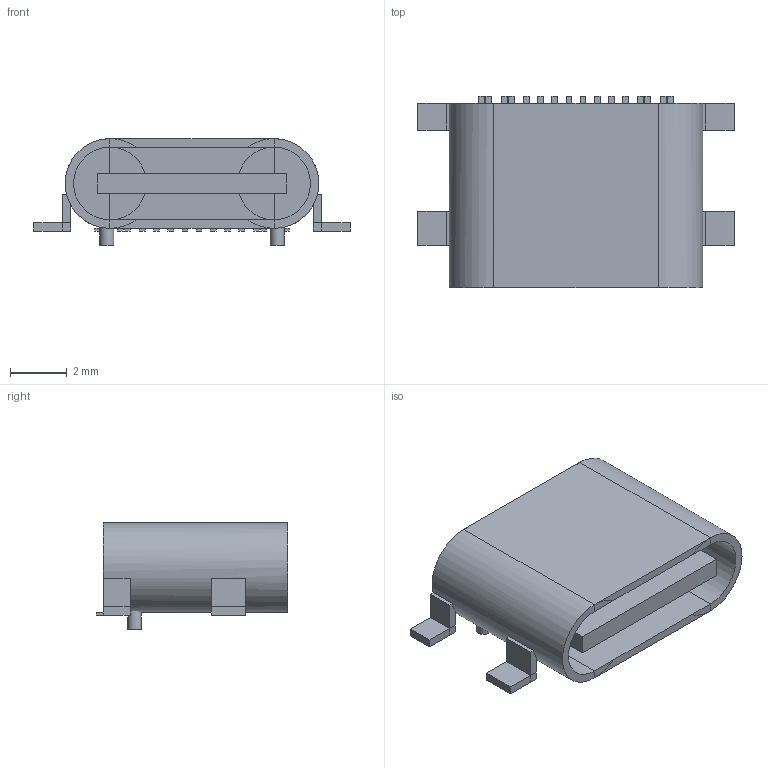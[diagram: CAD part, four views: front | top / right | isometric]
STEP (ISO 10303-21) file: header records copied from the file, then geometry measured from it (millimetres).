
FILE_DESCRIPTION(('Open CASCADE Model'),'2;1');
FILE_NAME('Open CASCADE Shape Model','2026-11-21T10:25:00',('Author'),( 'Open CASCADE'),'Open CASCADE STEP processor 8.0','Open CASCADE 8.0' ,'Unknown');
FILE_SCHEMA(('AUTOMOTIVE_DESIGN { 1 0 10303 214 1 1 1 1 }'));
Length unit declared in the file: millimetre
Products named in the file (19): Open CASCADE STEP translator 8.0 1; Open CASCADE STEP translator 8.0 1.1; Open CASCADE STEP translator 8.0 1.2; Open CASCADE STEP translator 8.0 1.3; Open CASCADE STEP translator 8.0 1.4; Open CASCADE STEP translator 8.0 1.5; Open CASCADE STEP translator 8.0 1.6; Open CASCADE STEP translator 8.0 1.7; Open CASCADE STEP translator 8.0 1.8; Open CASCADE STEP translator 8.0 1.9; Open CASCADE STEP translator 8.0 1.10; Open CASCADE STEP translator 8.0 1.11; Open CASCADE STEP translator 8.0 1.12; Open CASCADE STEP translator 8.0 1.13; Open CASCADE STEP translator 8.0 1.14; Open CASCADE STEP translator 8.0 1.15; Open CASCADE STEP translator 8.0 1.16; Open CASCADE STEP translator 8.0 1.17; Open CASCADE STEP translator 8.0 1.18
Assembly tree (18 placements, depth 2):
  Open CASCADE STEP translator 8.0 1
    Open CASCADE STEP translator 8.0 1.1
    Open CASCADE STEP translator 8.0 1.2
    Open CASCADE STEP translator 8.0 1.3
    Open CASCADE STEP translator 8.0 1.4
    Open CASCADE STEP translator 8.0 1.5
    Open CASCADE STEP translator 8.0 1.6
    Open CASCADE STEP translator 8.0 1.7
    Open CASCADE STEP translator 8.0 1.8
    Open CASCADE STEP translator 8.0 1.9
    Open CASCADE STEP translator 8.0 1.10
    Open CASCADE STEP translator 8.0 1.11
    Open CASCADE STEP translator 8.0 1.12
    Open CASCADE STEP translator 8.0 1.13
    Open CASCADE STEP translator 8.0 1.14
    Open CASCADE STEP translator 8.0 1.15
    Open CASCADE STEP translator 8.0 1.16
    Open CASCADE STEP translator 8.0 1.17
    Open CASCADE STEP translator 8.0 1.18
Bounding box: 11.14 x 6.75 x 3.76 mm (x, y, z)
Volume: 102.2 mm3; surface area: 455.5 mm2
Topology: 18 solids, 18 shells, 212 faces, 446 edges, 270 vertices
Faces by surface type: plane 204, cylinder 8
Full cylindrical faces by diameter (mm): 0.49 x2
Entity records: 11662 total; most frequent: CARTESIAN_POINT 2094, DIRECTION 1758, LINE 1141, VECTOR 1141, ORIENTED_EDGE 892, PCURVE 892, DEFINITIONAL_REPRESENTATION 892, EDGE_CURVE 446
